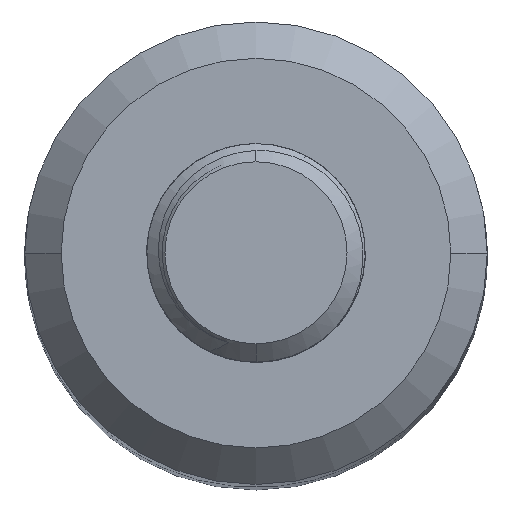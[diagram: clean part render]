
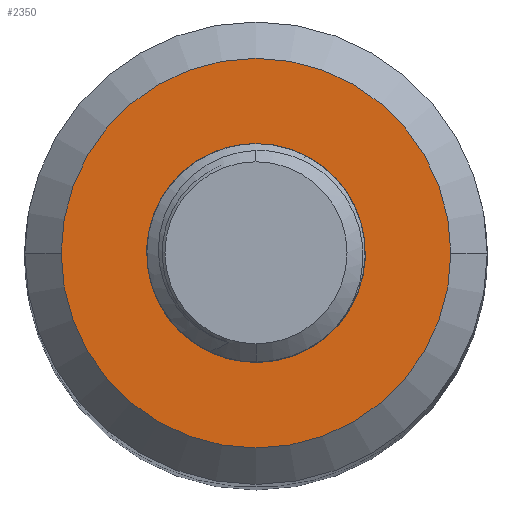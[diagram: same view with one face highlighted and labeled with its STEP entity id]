
A CAD part, top view. The second image highlights one B-rep face of the part: STEP entity #2350.
In plain terms, the highlighted planar face has unit normal (0, 0, 1).
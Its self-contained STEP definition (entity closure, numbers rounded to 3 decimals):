
#229=CARTESIAN_POINT('',(0.,0.,88.9));
#230=DIRECTION('',(0.,0.,1.));
#231=DIRECTION('',(-1.,0.,0.));
#232=AXIS2_PLACEMENT_3D('',#229,#230,#231);
#234=CARTESIAN_POINT('',(0.,0.,88.9));
#235=DIRECTION('',(0.,0.,1.));
#236=DIRECTION('',(1.,0.,0.));
#237=AXIS2_PLACEMENT_3D('',#234,#235,#236);
#239=CARTESIAN_POINT('',(0.,0.,88.9));
#240=DIRECTION('',(0.,0.,-1.));
#241=DIRECTION('',(0.,1.,0.));
#242=AXIS2_PLACEMENT_3D('',#239,#240,#241);
#244=CARTESIAN_POINT('',(0.,0.,88.9));
#245=DIRECTION('',(0.,0.,-1.));
#246=DIRECTION('',(0.,-1.,0.));
#247=AXIS2_PLACEMENT_3D('',#244,#245,#246);
#1983=CARTESIAN_POINT('',(-5.35,0.,88.9));
#1984=CARTESIAN_POINT('',(5.35,0.,88.9));
#1985=VERTEX_POINT('',#1983);
#1986=VERTEX_POINT('',#1984);
#2027=CARTESIAN_POINT('',(0.,2.,88.9));
#2028=CARTESIAN_POINT('',(0.,-2.,88.9));
#2029=VERTEX_POINT('',#2027);
#2030=VERTEX_POINT('',#2028);
#2334=CARTESIAN_POINT('',(0.,0.,88.9));
#2335=DIRECTION('',(0.,0.,1.));
#2336=DIRECTION('',(1.,0.,0.));
#2337=AXIS2_PLACEMENT_3D('',#2334,#2335,#2336);
#2338=PLANE('',#2337);
#2339=ORIENTED_EDGE('',*,*,#2324,.F.);
#2341=ORIENTED_EDGE('',*,*,#2340,.F.);
#2342=EDGE_LOOP('',(#2339,#2341));
#2343=FACE_OUTER_BOUND('',#2342,.F.);
#2345=ORIENTED_EDGE('',*,*,#2344,.F.);
#2347=ORIENTED_EDGE('',*,*,#2346,.F.);
#2348=EDGE_LOOP('',(#2345,#2347));
#2349=FACE_BOUND('',#2348,.F.);
#2350=ADVANCED_FACE('',(#2343,#2349),#2338,.T.);
#233=CIRCLE('',#232,5.35);
#238=CIRCLE('',#237,5.35);
#243=CIRCLE('',#242,2.);
#248=CIRCLE('',#247,2.);
#2324=EDGE_CURVE('',#1985,#1986,#233,.T.);
#2340=EDGE_CURVE('',#1986,#1985,#238,.T.);
#2344=EDGE_CURVE('',#2029,#2030,#243,.T.);
#2346=EDGE_CURVE('',#2030,#2029,#248,.T.);
